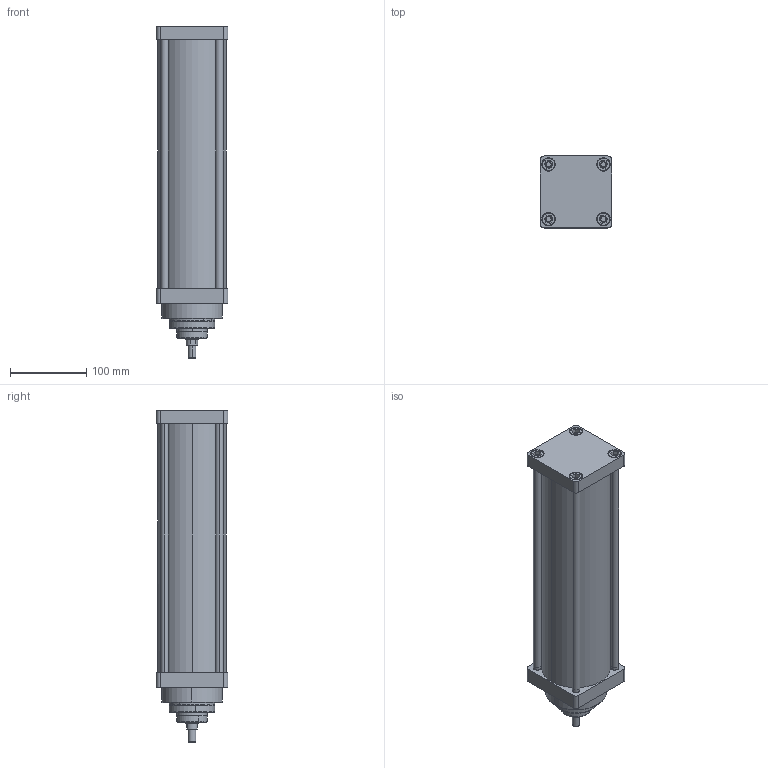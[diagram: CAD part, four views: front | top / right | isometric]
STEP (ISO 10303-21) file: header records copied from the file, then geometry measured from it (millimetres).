
FILE_DESCRIPTION (( 'STEP AP214' ), '1' );
FILE_NAME ('TLSK_3K_80_800.STEP', '2023-01-07T17:20:06', ( '' ), ( '' ), 'SwSTEP 2.0', 'SolidWorks 2021', '' );
FILE_SCHEMA (( 'AUTOMOTIVE_DESIGN' ));
Length unit declared in the file: millimetre
Products named in the file (19): pap_60_65_12; K52-16X20_5X3_6-4_8; K103-040; K103-060; 16_18_PAP_16_18_10_PAP; 40_35_boru_WEB; 56_60_alm.boru_WEB; CIVATA_WEB; pap_40_44_12; 80_90_alm_boru_WEB; 63_1600_50boru_kapak_teleskopik; TLSK_3K_80_800; 63_ON_KAPAK_OZEL; M8_SAPLAMA_100_WEB; 16_K_M尳_WEB; Kastas Seals-KO-32X2_5; 63_ARKA_KAPAK_OZEL; KO-54X3; 63_400_26boru_kapak_otto
Assembly tree (28 placements, depth 2):
  TLSK_3K_80_800
    40_35_boru_WEB
    16_K_M尳_WEB
    63_400_26boru_kapak_otto
    Kastas Seals-KO-32X2_5
    63_ON_KAPAK_OZEL
    63_ARKA_KAPAK_OZEL
    56_60_alm.boru_WEB
    63_1600_50boru_kapak_teleskopik
    K103-060
    pap_40_44_12
    pap_60_65_12
    K103-040
    KO-54X3
    80_90_alm_boru_WEB
    16_18_PAP_16_18_10_PAP
    K52-16X20_5X3_6-4_8
    M8_SAPLAMA_100_WEB  x4
    CIVATA_WEB  x8
Bounding box: 94 x 94 x 436.33 mm (x, y, z)
Volume: 962856.9 mm3; surface area: 417233.7 mm2
Topology: 28 solids, 28 shells, 1128 faces, 2696 edges, 1720 vertices
Faces by surface type: cylinder 385, plane 329, bspline 225, cone 167, torus 22
Entity records: 58844 total; most frequent: CARTESIAN_POINT 38047, ORIENTED_EDGE 4416, DIRECTION 3429, EDGE_CURVE 2208, VERTEX_POINT 1418, AXIS2_PLACEMENT_3D 1270, EDGE_LOOP 1030, VECTOR 889
